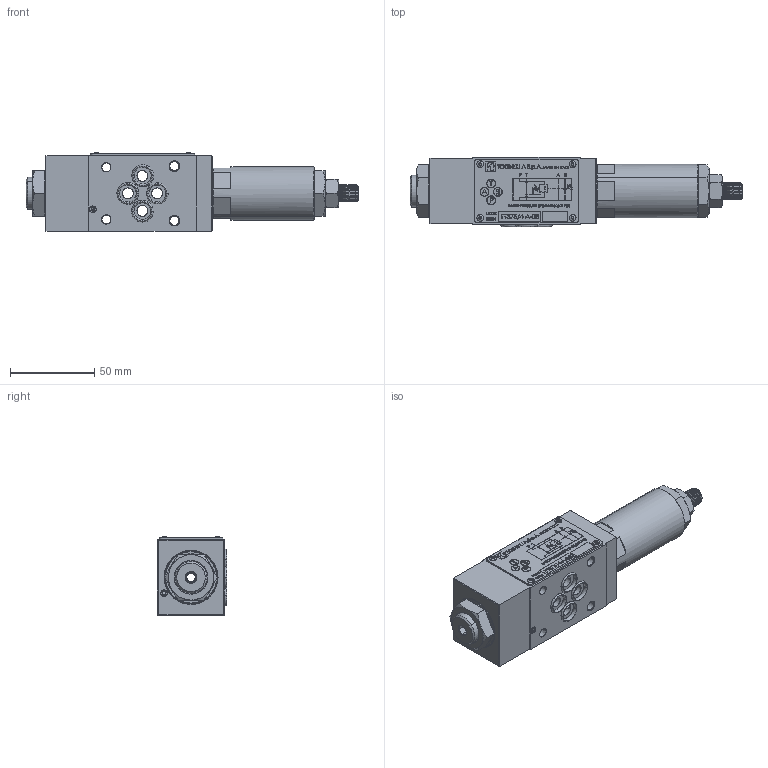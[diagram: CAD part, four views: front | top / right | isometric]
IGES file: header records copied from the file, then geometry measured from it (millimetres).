
Start section: SolidWorks IGES file using analytic representation for surfaces
Global section: file name: C:\Users\pc-te25\Desktop\ASSIEME 375-4-A-03.IGS; native system: SolidWorks 2018; preprocessor: SolidWorks 2018; author: pc-te25; date: 191203.145328; units: millimetre
Bounding box: 197.59 x 41.31 x 46.66 mm (x, y, z)
Surface area: 38517.4 mm2 (no closed solid volume)
Topology: 0 solids, 0 shells, 735 faces, 13515 edges, 13515 vertices
Faces by surface type: bspline 498, revolution 237
